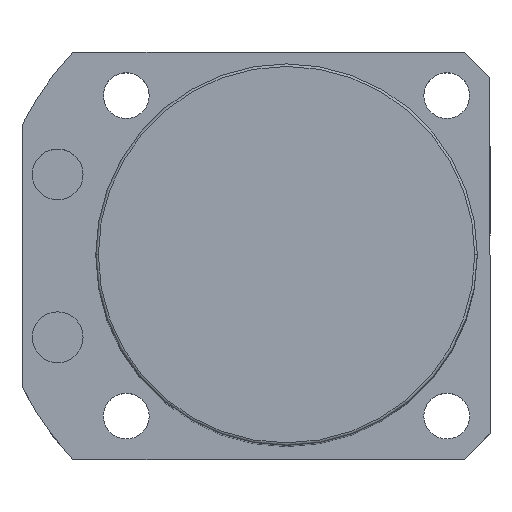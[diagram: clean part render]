
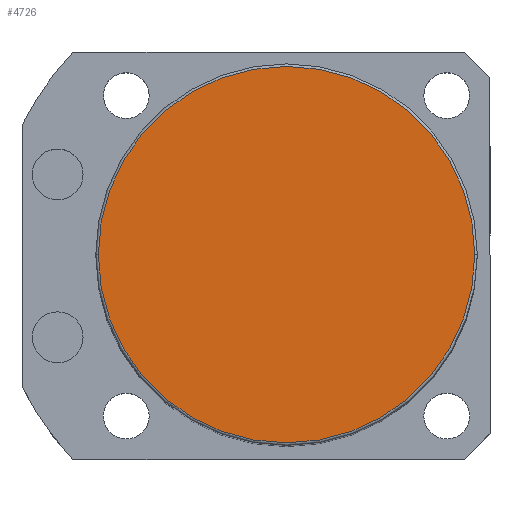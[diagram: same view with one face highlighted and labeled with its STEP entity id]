
A CAD part, top view. The second image highlights one B-rep face of the part: STEP entity #4726.
In plain terms, the highlighted planar face has unit normal (0, 0, 1).
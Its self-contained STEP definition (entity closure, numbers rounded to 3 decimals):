
#452 = AXIS2_PLACEMENT_3D ( 'NONE', #2068, #595, #5660 ) ;
#595 = DIRECTION ( 'NONE',  ( 0., 0., 1. ) ) ;
#964 = CARTESIAN_POINT ( 'NONE',  ( 37., 0., 155.5 ) ) ;
#1034 = CIRCLE ( 'NONE', #3469, 37. ) ;
#1437 = CARTESIAN_POINT ( 'NONE',  ( 0., 0., 155.5 ) ) ;
#1990 = ORIENTED_EDGE ( 'NONE', *, *, #5521, .T. ) ;
#2068 = CARTESIAN_POINT ( 'NONE',  ( 0., 0., 155.5 ) ) ;
#2217 = VERTEX_POINT ( 'NONE', #6041 ) ;
#2225 = VERTEX_POINT ( 'NONE', #964 ) ;
#2912 = PLANE ( 'NONE',  #5753 ) ;
#2929 = DIRECTION ( 'NONE',  ( 1., 0., 0. ) ) ;
#2982 = DIRECTION ( 'NONE',  ( 1., 0., 0. ) ) ;
#3469 = AXIS2_PLACEMENT_3D ( 'NONE', #6479, #5949, #2929 ) ;
#4143 = EDGE_LOOP ( 'NONE', ( #5844, #1990 ) ) ;
#4726 = ADVANCED_FACE ( 'NONE', ( #6387 ), #2912, .T. ) ;
#5506 = CIRCLE ( 'NONE', #452, 37. ) ;
#5521 = EDGE_CURVE ( 'NONE', #2217, #2225, #5506, .T. ) ;
#5660 = DIRECTION ( 'NONE',  ( 1., 0., 0. ) ) ;
#5753 = AXIS2_PLACEMENT_3D ( 'NONE', #1437, #6036, #2982 ) ;
#5844 = ORIENTED_EDGE ( 'NONE', *, *, #6101, .T. ) ;
#5949 = DIRECTION ( 'NONE',  ( 0., 0., 1. ) ) ;
#6036 = DIRECTION ( 'NONE',  ( 0., 0., 1. ) ) ;
#6041 = CARTESIAN_POINT ( 'NONE',  ( -37., 0., 155.5 ) ) ;
#6101 = EDGE_CURVE ( 'NONE', #2225, #2217, #1034, .T. ) ;
#6387 = FACE_OUTER_BOUND ( 'NONE', #4143, .T. ) ;
#6479 = CARTESIAN_POINT ( 'NONE',  ( 0., 0., 155.5 ) ) ;
